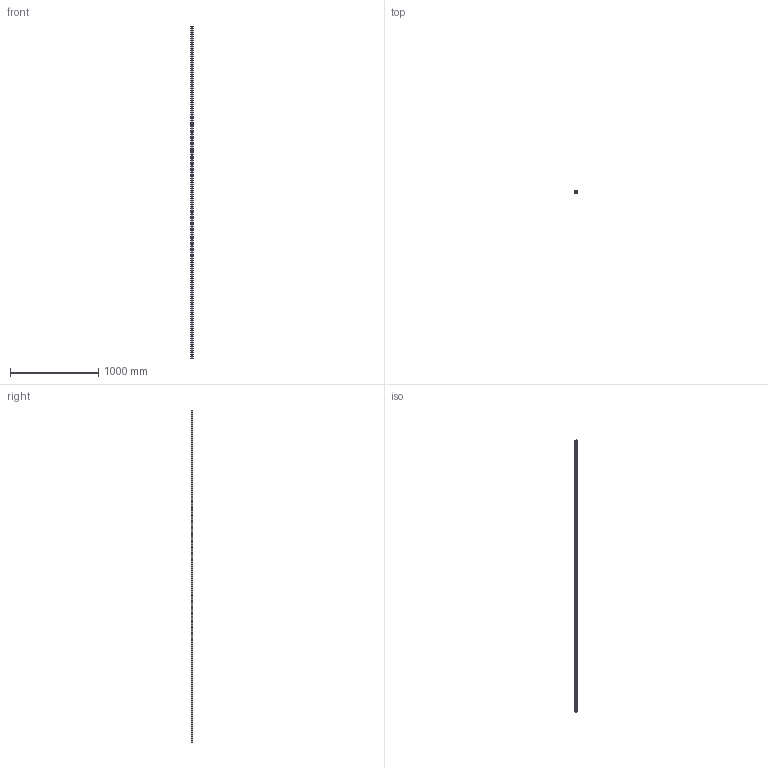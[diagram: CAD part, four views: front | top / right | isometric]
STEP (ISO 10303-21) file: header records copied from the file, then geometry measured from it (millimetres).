
FILE_DESCRIPTION (( 'STEP AP203' ), '1' );
FILE_NAME ('L1016.BL25-3760.step', '2019-06-12T12:16:37', ( '' ), ( '' ), 'SwSTEP 2.0', 'SolidWorks 2017', '' );
FILE_SCHEMA (( 'CONFIG_CONTROL_DESIGN' ));
Length unit declared in the file: millimetre
Products named in the file (1): L1016.BL25-3760
Bounding box: 23 x 19.2 x 3760 mm (x, y, z)
Volume: 1385718.8 mm3; surface area: 355508.1 mm2
Topology: 1 solids, 1 shells, 341 faces, 828 edges, 552 vertices
Faces by surface type: cylinder 256, plane 85
Entity records: 10603 total; most frequent: DIRECTION 2024, CARTESIAN_POINT 1722, ORIENTED_EDGE 1656, AXIS2_PLACEMENT_3D 854, EDGE_CURVE 828, VERTEX_POINT 552, EDGE_LOOP 530, CIRCLE 512
